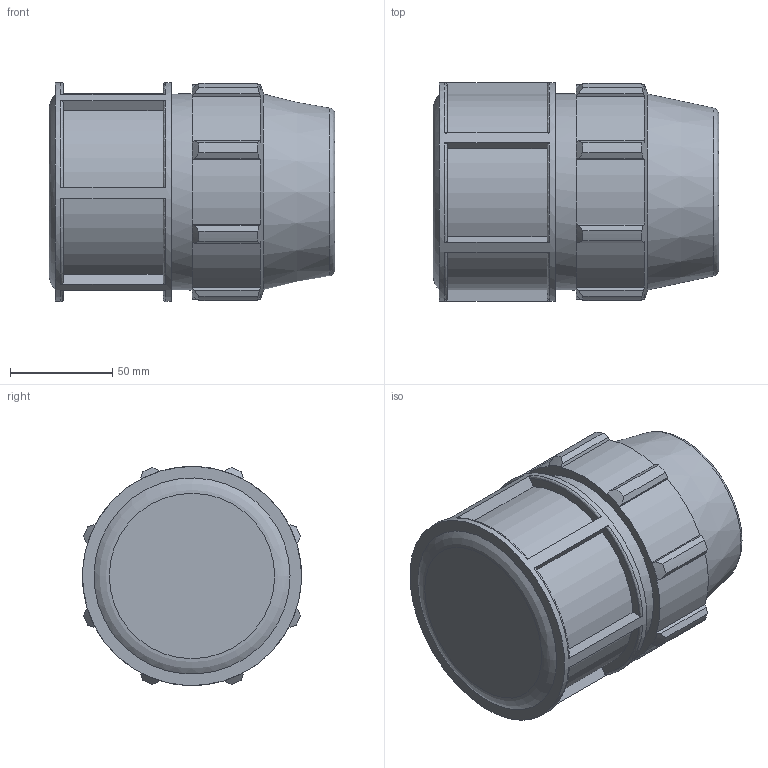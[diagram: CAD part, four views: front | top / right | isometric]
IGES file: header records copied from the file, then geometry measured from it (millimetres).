
Global section: file name: 0712M0200.ipt; native system: Autodesk Inventor 2019; preprocessor: unknown; author: Кирилл,,11,0; organization: 20170224.180708; date: 20210826.124728; units: inch
Bounding box: 139.95 x 107.27 x 107.37 mm (x, y, z)
Volume: 670873 mm3; surface area: 94301.7 mm2
Topology: 1 solids, 1 shells, 115 faces, 313 edges, 210 vertices
Faces by surface type: plane 63, cylinder 24, revolution 18, cone 10
Full cylindrical faces by diameter (mm): 96.076 x1, 107.378 x1
